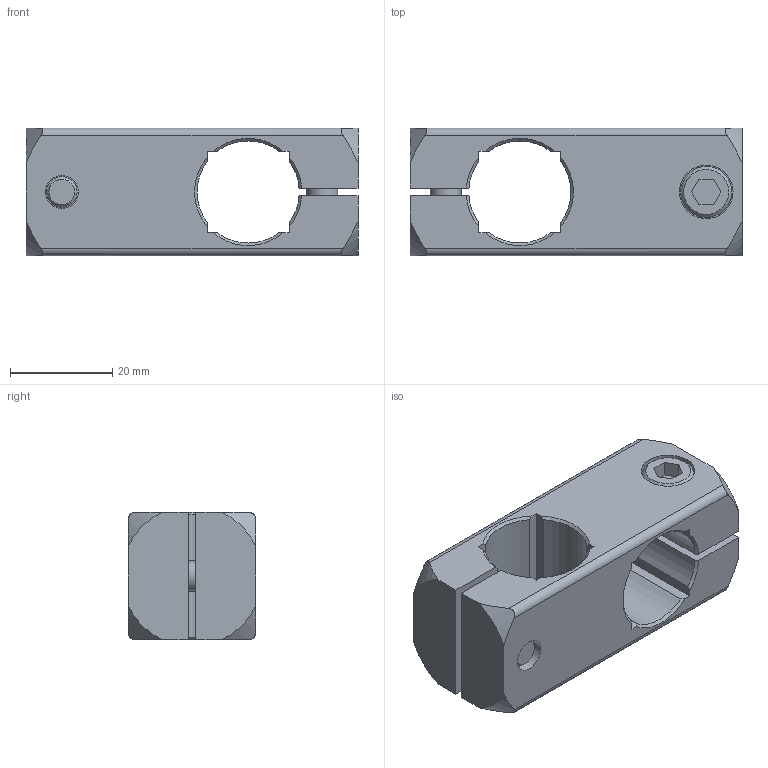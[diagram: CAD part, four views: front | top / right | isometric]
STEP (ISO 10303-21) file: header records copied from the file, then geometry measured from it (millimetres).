
FILE_DESCRIPTION( ( 'STEP AP203' ), '1' );
FILE_NAME( 'C:/Temp/Ganter_Step_05_03_2020/data/3_7/gn_474/Two-way clamp mounting GN 474-B20-B20-MT.stp', '2020-03-12T14:44:56', ( 'License CC BY-ND 4.0' ), ( 'CADENAS' ), ' ', 'PARTsolutions', ' ' );
FILE_SCHEMA( ( 'CONFIG_CONTROL_DESIGN' ) );
Length unit declared in the file: millimetre
Products named in the file (1): _Two-way clamp mounting GN 474-B20-B20-MT
Bounding box: 65 x 25 x 25 mm (x, y, z)
Volume: 22992.8 mm3; surface area: 12523.6 mm2
Topology: 1 solids, 1 shells, 106 faces, 280 edges, 186 vertices
Faces by surface type: plane 50, cone 32, cylinder 24
Full cylindrical faces by diameter (mm): 6 x2, 6.5 x4, 10 x2, 10.5 x2
Entity records: 3404 total; most frequent: CARTESIAN_POINT 843, ORIENTED_EDGE 528, DIRECTION 486, EDGE_CURVE 264, VERTEX_POINT 184, AXIS2_PLACEMENT_3D 179, EDGE_LOOP 134, LINE 128
